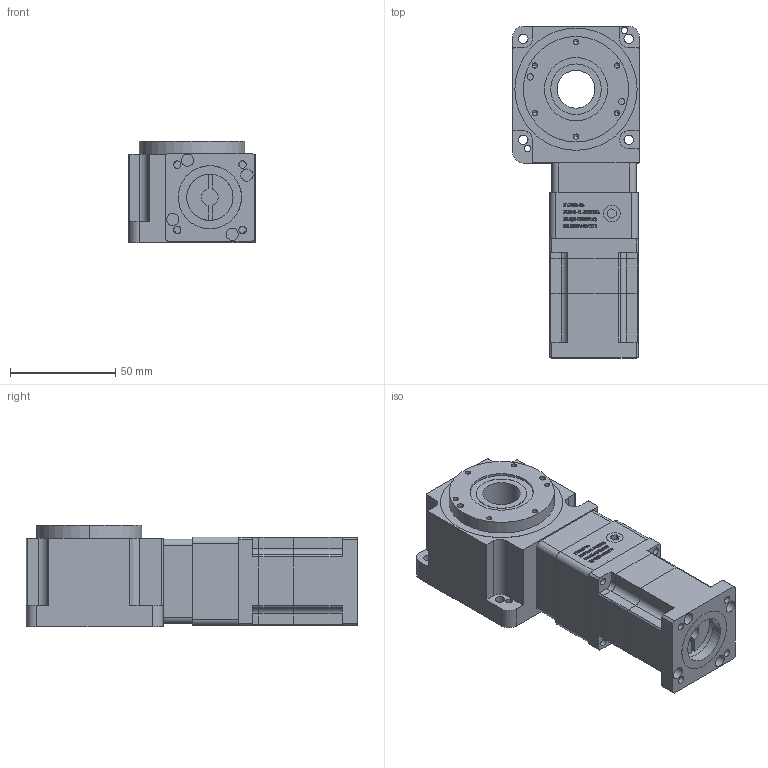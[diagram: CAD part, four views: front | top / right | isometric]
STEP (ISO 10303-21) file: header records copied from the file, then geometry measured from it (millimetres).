
FILE_DESCRIPTION (( 'STEP AP203' ), '1' );
FILE_NAME ('HYP060-30-PLF040-L1-B1减速机56.5(配42步进尺寸)组合体.STEP', '2024-07-24T03:51:39', ( 'Windows User' ), ( 'P R C' ), 'SwSTEP 2.0', 'SolidWorks 2016', '' );
FILE_SCHEMA (( 'CONFIG_CONTROL_DESIGN' ));
Length unit declared in the file: millimetre
Products named in the file (5): HYP60-30-M2（8-30-46-M4）_1; HYP060-5-10-MT(配减速机法兰)（8-35-50-M3）; 蚾饜极3; PLF42-L1-8粣(8-21-22-1.6-4-M3-31-31); HYP060-30-PLF040-L1-B1减速机56.5(配42步进尺寸)组合体
Assembly tree (4 placements, depth 3):
  HYP060-30-PLF040-L1-B1减速机56.5(配42步进尺寸)组合体
    蚾饜极3
      HYP60-30-M2（8-30-46-M4）_1
      HYP060-5-10-MT(配减速机法兰)（8-35-50-M3）
    PLF42-L1-8粣(8-21-22-1.6-4-M3-31-31)
Bounding box: 60 x 157.5 x 48 mm (x, y, z)
Volume: 272764.6 mm3; surface area: 68449.7 mm2
Topology: 35 solids, 36 shells, 2316 faces, 6532 edges, 4329 vertices
Faces by surface type: plane 1459, bspline 478, cylinder 341, cone 38
Entity records: 93019 total; most frequent: CARTESIAN_POINT 35060, ORIENTED_EDGE 13004, DIRECTION 10213, EDGE_CURVE 6502, VERTEX_POINT 4329, VECTOR 4127, LINE 4127, AXIS2_PLACEMENT_3D 3043
